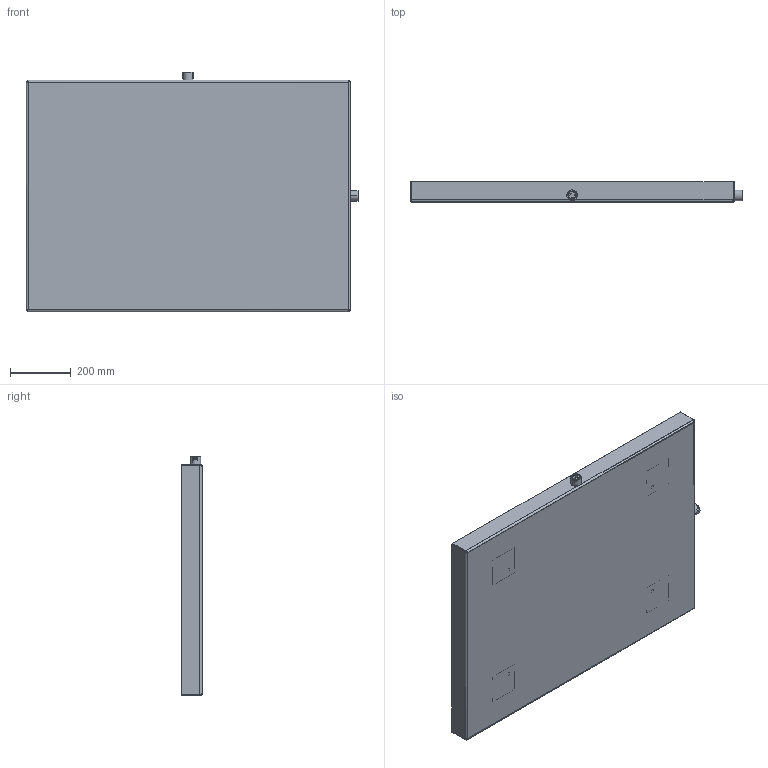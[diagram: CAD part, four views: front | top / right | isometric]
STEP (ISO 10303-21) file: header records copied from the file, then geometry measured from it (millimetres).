
FILE_DESCRIPTION (( 'STEP AP203' ), '1' );
FILE_NAME ('RJDPP020.STEP', '2015-01-07T19:49:19', ( '' ), ( '' ), 'SwSTEP 2.0', 'SolidWorks 2014', '' );
FILE_SCHEMA (( 'CONFIG_CONTROL_DESIGN' ));
Length unit declared in the file: inch
Products named in the file (1): RJDPP020
Bounding box: 1092.2 x 66.67 x 787.4 mm (x, y, z)
Volume: 3695904.6 mm3; surface area: 2202736.8 mm2
Topology: 9 solids, 9 shells, 250 faces, 532 edges, 304 vertices
Faces by surface type: cone 128, plane 70, cylinder 44, bspline 8
Entity records: 7243 total; most frequent: CARTESIAN_POINT 1703, DIRECTION 1210, ORIENTED_EDGE 1064, EDGE_CURVE 532, AXIS2_PLACEMENT_3D 451, VECTOR 308, LINE 308, VERTEX_POINT 304
